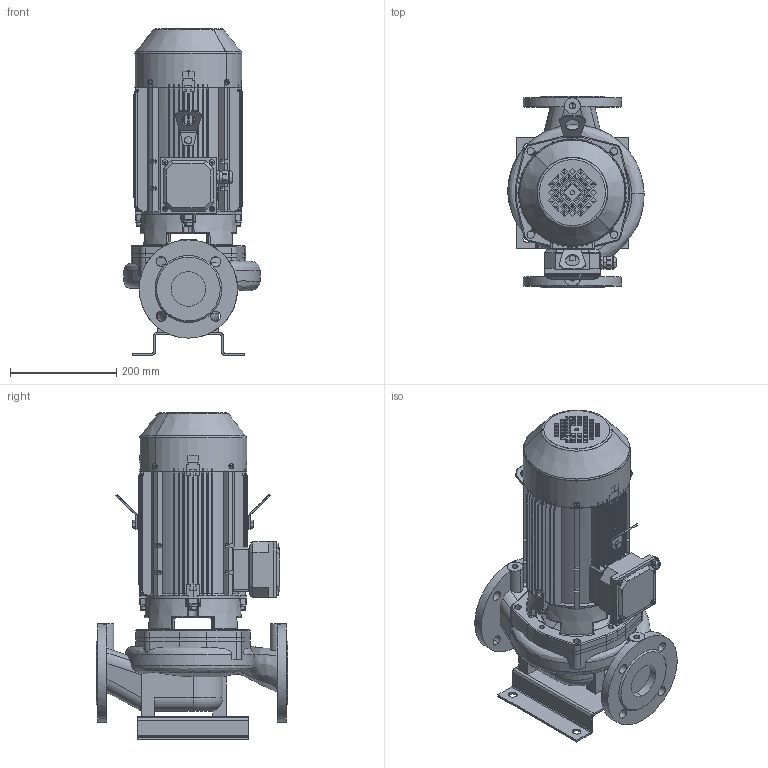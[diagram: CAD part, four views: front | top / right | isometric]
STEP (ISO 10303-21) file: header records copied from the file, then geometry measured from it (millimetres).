
FILE_DESCRIPTION(('STEP AP214'),'1');
FILE_NAME('export.stp','2018-05-28T11:40:58',(' '),(' '),'Spatial InterOp 3D',' ',' ');
FILE_SCHEMA(('AUTOMOTIVE_DESIGN { 1 0 10303 214 1 1 1 1 }'));
Length unit declared in the file: millimetre
Products named in the file (31): W_ALP10664; V_JALKA35973; V_PPAL10651066; V_TLL65AB80A1102; W_ALP10664300KP10; 160027; 160005; V_MKP100-2_F19; 160141; 160137; 160138; 160139; 160140; Koura_Ale_M5; Plug_Blind_M20; Sealing_Plug_M20; DIN_7985-M5X8; DIN_7985-M5X12; Assembly_Connection; Connecting_Part; Connection_Strip; DIN_125_A4_Washer_DIN_125_-_A_4.; ISO_4032_M4_ISO_-_4032_-_M4_-_D_; 160060___; 160059___; DIN_471-28X1.5_Circlip_DIN_471_-; 160136; 160134; DIN_EN_24017_-_M8_16-Stainless_S; DIN_912-M8X25_DIN_912_M8_x_25_--; DIN_127-B8
Assembly tree (83 placements, depth 4):
  W_ALP10664300KP10
    W_ALP10664
      V_JALKA35973
      V_PPAL10651066
      V_TLL65AB80A1102
    V_MKP100-2_F19
      160027
        160005
      160141
        160137
        160138
        160139
        160140
        Koura_Ale_M5
        Plug_Blind_M20
        Sealing_Plug_M20
        DIN_7985-M5X8
        DIN_7985-M5X12  x4
      Assembly_Connection
        Connecting_Part
        Connection_Strip  x3
        DIN_125_A4_Washer_DIN_125_-_A_4.  x12
        ISO_4032_M4_ISO_-_4032_-_M4_-_D_  x12
      160060___
      160059___
      DIN_471-28X1.5_Circlip_DIN_471_-
      160136
      160134  x2
      DIN_EN_24017_-_M8_16-Stainless_S  x2
      DIN_912-M8X25_DIN_912_M8_x_25_--  x8
      DIN_7985-M5X12  x6
      DIN_7985-M5X8  x4
      DIN_127-B8  x8
Bounding box: 256.45 x 360 x 615 mm (x, y, z)
Volume: 7408650.3 mm3; surface area: 1725177.3 mm2
Topology: 78 solids, 79 shells, 3630 faces, 9238 edges, 5810 vertices
Faces by surface type: plane 1604, cylinder 1090, cone 391, torus 274, bspline 256, sphere 15
Entity records: 104597 total; most frequent: CARTESIAN_POINT 35207, ORIENTED_EDGE 14004, DIRECTION 13196, EDGE_CURVE 7004, AXIS2_PLACEMENT_3D 4956, VERTEX_POINT 4467, LINE 3284, VECTOR 3284
